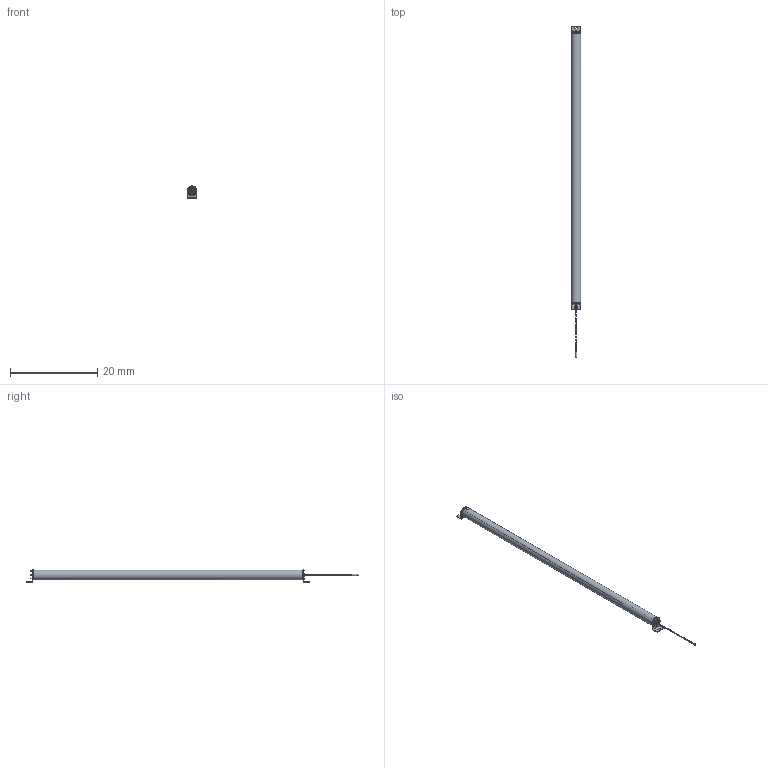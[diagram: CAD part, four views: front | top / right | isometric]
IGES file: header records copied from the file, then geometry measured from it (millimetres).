
Start section:  Autodesk DirectConnect version 7.0.27.0 ---- IGES version 5.3
Global section: file name: C:\ACADFILES\SS_PYLONS\CUSTOMER_FILES\SS-60-PYLON_3D_SMB_PT.iges; native system: Autodesk DirectConnect 7.0.27.0; preprocessor: 7.0.27.0; author: ENGINEERMAIN; organization: Unknown; date: 20150810.125814; units: millimetre
Bounding box: 2.26 x 76.01 x 2.75 mm (x, y, z)
Surface area: 1788.7 mm2 (no closed solid volume)
Topology: 0 solids, 0 shells, 772 faces, 3944 edges, 3944 vertices
Faces by surface type: bspline 772
